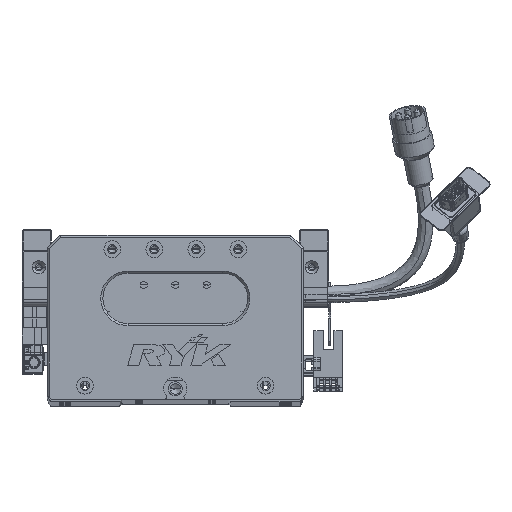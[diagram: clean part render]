
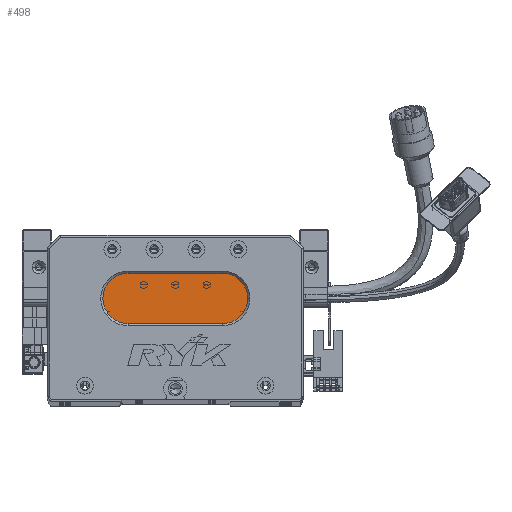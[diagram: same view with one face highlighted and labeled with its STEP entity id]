
A CAD part, top view. The second image highlights one B-rep face of the part: STEP entity #498.
In plain terms, the highlighted planar face has unit normal (0, 0, 1) as drawn and (0, 0, -1) by its records, which use the part's own axes.
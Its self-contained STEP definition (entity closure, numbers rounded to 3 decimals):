
#498 = ADVANCED_FACE ( 'NONE', ( #32237 ), #52776, .T. ) ;
#1602 = VECTOR ( 'NONE', #29906, 1000. ) ;
#3101 = VERTEX_POINT ( 'NONE', #15163 ) ;
#3829 = DIRECTION ( 'NONE',  ( 0., 0., -1. ) ) ;
#8651 = AXIS2_PLACEMENT_3D ( 'NONE', #9783, #46421, #60360 ) ;
#9783 = CARTESIAN_POINT ( 'NONE',  ( 38.5, 48., 13. ) ) ;
#9786 = DIRECTION ( 'NONE',  ( 0., 0., -1. ) ) ;
#10100 = DIRECTION ( 'NONE',  ( -1., 0., 0. ) ) ;
#11460 = CARTESIAN_POINT ( 'NONE',  ( 38.5, 60., 13. ) ) ;
#15163 = CARTESIAN_POINT ( 'NONE',  ( 38.5, 36., 13. ) ) ;
#22781 = ORIENTED_EDGE ( 'NONE', *, *, #77067, .T. ) ;
#23064 = AXIS2_PLACEMENT_3D ( 'NONE', #32000, #3829, #75547 ) ;
#24410 = VERTEX_POINT ( 'NONE', #78035 ) ;
#26362 = CIRCLE ( 'NONE', #23064, 12. ) ;
#27050 = CARTESIAN_POINT ( 'NONE',  ( 83.5, 36., 13. ) ) ;
#29683 = VERTEX_POINT ( 'NONE', #35021 ) ;
#29906 = DIRECTION ( 'NONE',  ( 1., 0., 0. ) ) ;
#31897 = LINE ( 'NONE', #27050, #52215 ) ;
#32000 = CARTESIAN_POINT ( 'NONE',  ( 83.5, 48., 13. ) ) ;
#32237 = FACE_OUTER_BOUND ( 'NONE', #73033, .T. ) ;
#32538 = CARTESIAN_POINT ( 'NONE',  ( 83.5, 36., 13. ) ) ;
#32850 = CIRCLE ( 'NONE', #87980, 12. ) ;
#35021 = CARTESIAN_POINT ( 'NONE',  ( 83.5, 60., 13. ) ) ;
#40511 = DIRECTION ( 'NONE',  ( 0., 0., -1. ) ) ;
#41688 = EDGE_CURVE ( 'NONE', #29683, #81762, #26362, .T. ) ;
#46307 = CIRCLE ( 'NONE', #8651, 12. ) ;
#46421 = DIRECTION ( 'NONE',  ( 0., 0., -1. ) ) ;
#51519 = EDGE_CURVE ( 'NONE', #24410, #55374, #46307, .T. ) ;
#52215 = VECTOR ( 'NONE', #77551, 1000. ) ;
#52776 = PLANE ( 'NONE',  #69348 ) ;
#53094 = CARTESIAN_POINT ( 'NONE',  ( 83.5, 48., 13. ) ) ;
#55374 = VERTEX_POINT ( 'NONE', #11460 ) ;
#56070 = ORIENTED_EDGE ( 'NONE', *, *, #72642, .T. ) ;
#60360 = DIRECTION ( 'NONE',  ( -1., 0., 0. ) ) ;
#63874 = LINE ( 'NONE', #80760, #1602 ) ;
#68333 = DIRECTION ( 'NONE',  ( -1., 0., 0. ) ) ;
#69348 = AXIS2_PLACEMENT_3D ( 'NONE', #53094, #9786, #10100 ) ;
#71575 = ORIENTED_EDGE ( 'NONE', *, *, #41688, .T. ) ;
#72423 = ORIENTED_EDGE ( 'NONE', *, *, #93753, .T. ) ;
#72642 = EDGE_CURVE ( 'NONE', #3101, #24410, #32850, .T. ) ;
#73033 = EDGE_LOOP ( 'NONE', ( #71575, #22781, #56070, #78039, #72423 ) ) ;
#75547 = DIRECTION ( 'NONE',  ( -1., 0., 0. ) ) ;
#77067 = EDGE_CURVE ( 'NONE', #81762, #3101, #31897, .T. ) ;
#77551 = DIRECTION ( 'NONE',  ( -1., 0., 0. ) ) ;
#78035 = CARTESIAN_POINT ( 'NONE',  ( 26.5, 48., 13. ) ) ;
#78039 = ORIENTED_EDGE ( 'NONE', *, *, #51519, .T. ) ;
#80760 = CARTESIAN_POINT ( 'NONE',  ( 83.5, 60., 13. ) ) ;
#81762 = VERTEX_POINT ( 'NONE', #32538 ) ;
#82883 = CARTESIAN_POINT ( 'NONE',  ( 38.5, 48., 13. ) ) ;
#87980 = AXIS2_PLACEMENT_3D ( 'NONE', #82883, #40511, #68333 ) ;
#93753 = EDGE_CURVE ( 'NONE', #55374, #29683, #63874, .T. ) ;
